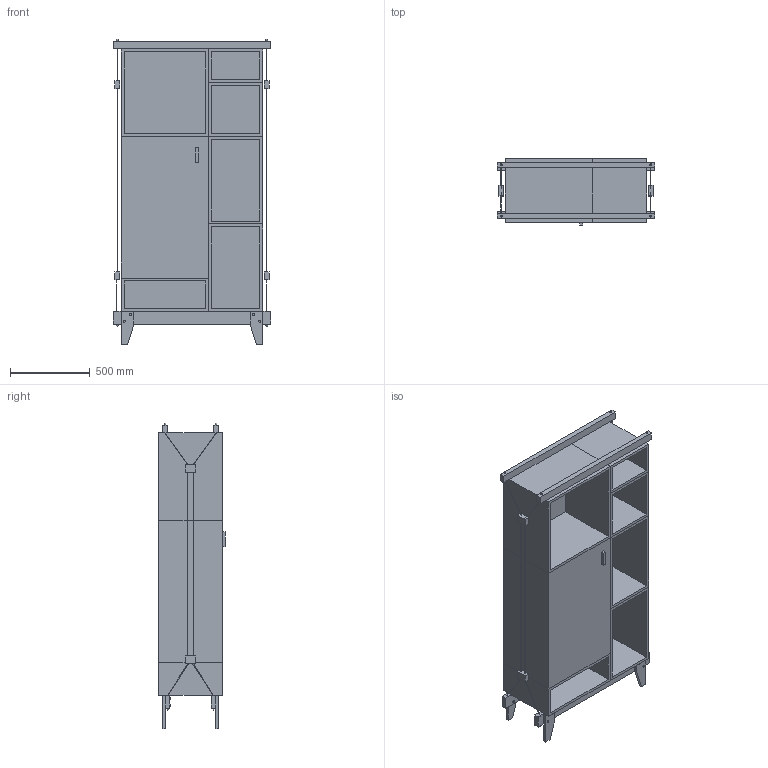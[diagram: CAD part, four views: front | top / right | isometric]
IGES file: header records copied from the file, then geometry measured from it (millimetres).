
Start section: Data from Parasolid IGES Translator 17.0.49, Copyright(c) 2006 Siemens P LM Software. All Rights Reserved.
Global section: file name: Saam D.igs; native system: By Siemens PLM Incorporated; preprocessor: XPlus GENERIC/IGES 17.0.49; author: Noname; organization: Noname; date: 20170605.063202; units: metre
Bounding box: 989.98 x 418 x 1922 mm (x, y, z)
Volume: 286334490.6 mm3; surface area: 12365334.3 mm2
Topology: 35 solids, 35 shells, 229 faces, 452 edges, 300 vertices
Faces by surface type: plane 193, cylinder 28, sphere 8
Full cylindrical faces by diameter (mm): 3 x12, 12 x16
